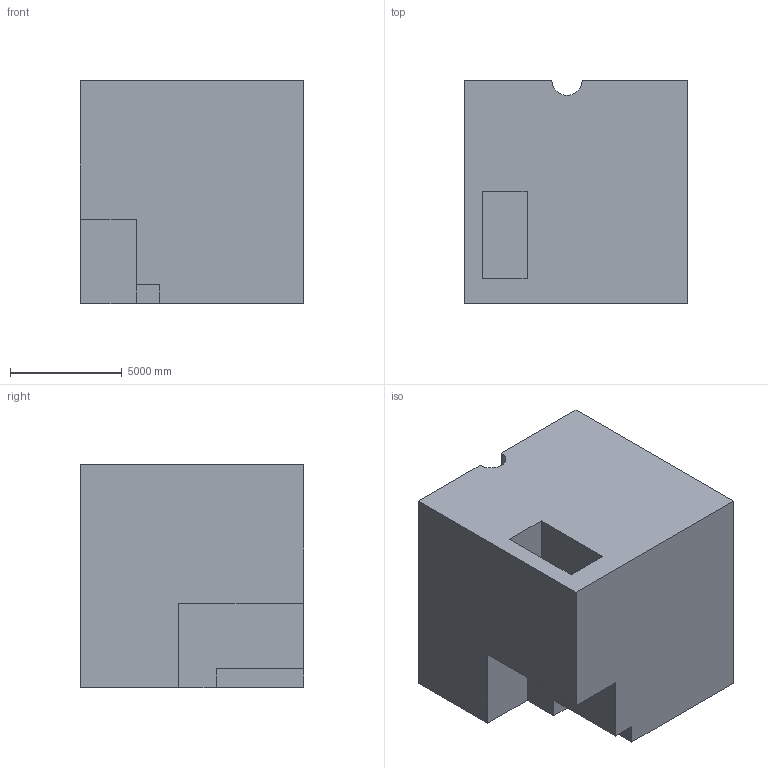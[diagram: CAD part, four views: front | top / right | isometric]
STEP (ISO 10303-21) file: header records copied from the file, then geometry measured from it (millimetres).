
FILE_DESCRIPTION (( 'STEP AP203' ), '1' );
FILE_NAME ('38.STEP', '2022-09-01T11:42:43', ( 'user' ), ( '' ), 'SwSTEP 2.0', 'SolidWorks 2021', '' );
FILE_SCHEMA (( 'CONFIG_CONTROL_DESIGN' ));
Length unit declared in the file: centimetre
Products named in the file (1): 38
Bounding box: 10000 x 10000 x 10000 mm (x, y, z)
Volume: 919519437666.2 mm3; surface area: 631509388 mm2
Topology: 1 solids, 1 shells, 19 faces, 48 edges, 32 vertices
Faces by surface type: plane 18, cylinder 1
Entity records: 641 total; most frequent: CARTESIAN_POINT 100, ORIENTED_EDGE 96, DIRECTION 90, EDGE_CURVE 48, LINE 46, VECTOR 46, VERTEX_POINT 32, AXIS2_PLACEMENT_3D 22
